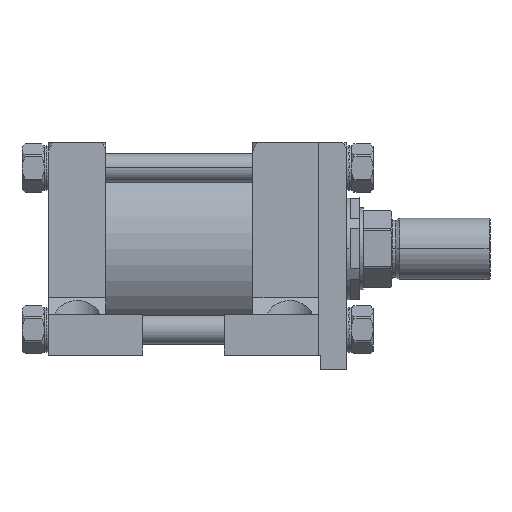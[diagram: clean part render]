
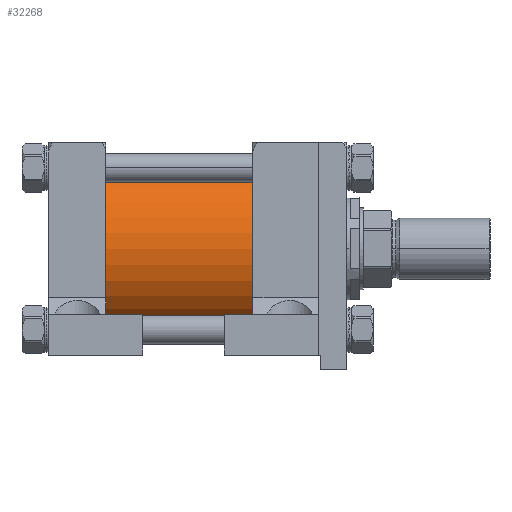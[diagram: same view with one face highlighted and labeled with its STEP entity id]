
A CAD part, front view. The second image highlights one B-rep face of the part: STEP entity #32268.
In plain terms, the highlighted cylindrical face has radius 73.025 mm (diameter 146.05 mm), a partial arc.
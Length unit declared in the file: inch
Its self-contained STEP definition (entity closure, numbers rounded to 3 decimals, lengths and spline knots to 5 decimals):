
#2795 = ORIENTED_EDGE ( 'NONE', *, *, #18049, .T. ) ;
#3043 = CARTESIAN_POINT ( 'NONE',  ( -9., 0., 0. ) ) ;
#3727 = VERTEX_POINT ( 'NONE', #40768 ) ;
#5960 = EDGE_CURVE ( 'NONE', #57860, #6254, #22225, .T. ) ;
#6254 = VERTEX_POINT ( 'NONE', #38153 ) ;
#8375 = FACE_OUTER_BOUND ( 'NONE', #51537, .T. ) ;
#12223 = CARTESIAN_POINT ( 'NONE',  ( -9., 0., 2.875 ) ) ;
#13126 = DIRECTION ( 'NONE',  ( 1., 0., 0. ) ) ;
#16745 = DIRECTION ( 'NONE',  ( 1., 0., 0. ) ) ;
#16849 = AXIS2_PLACEMENT_3D ( 'NONE', #33300, #52201, #37383 ) ;
#17806 = DIRECTION ( 'NONE',  ( 1., 0., 0. ) ) ;
#18049 = EDGE_CURVE ( 'NONE', #42977, #3727, #39229, .T. ) ;
#18780 = ORIENTED_EDGE ( 'NONE', *, *, #41698, .F. ) ;
#22225 = LINE ( 'NONE', #55882, #37690 ) ;
#22722 = ORIENTED_EDGE ( 'NONE', *, *, #61831, .T. ) ;
#27446 = CYLINDRICAL_SURFACE ( 'NONE', #52611, 2.875 ) ;
#30912 = CIRCLE ( 'NONE', #16849, 2.875 ) ;
#31915 = CARTESIAN_POINT ( 'NONE',  ( -4., 0., 0. ) ) ;
#32268 = ADVANCED_FACE ( 'NONE', ( #8375 ), #27446, .T. ) ;
#33300 = CARTESIAN_POINT ( 'NONE',  ( -9., 0., 0. ) ) ;
#33624 = AXIS2_PLACEMENT_3D ( 'NONE', #31915, #13126, #60000 ) ;
#34786 = DIRECTION ( 'NONE',  ( 1., 0., 0. ) ) ;
#35907 = DIRECTION ( 'NONE',  ( 0., 0., -1. ) ) ;
#37383 = DIRECTION ( 'NONE',  ( 0., 1., 0. ) ) ;
#37690 = VECTOR ( 'NONE', #17806, 39.37008 ) ;
#38153 = CARTESIAN_POINT ( 'NONE',  ( -4., 0., 2.875 ) ) ;
#39229 = LINE ( 'NONE', #58439, #59616 ) ;
#40768 = CARTESIAN_POINT ( 'NONE',  ( -4., 0., -2.875 ) ) ;
#41698 = EDGE_CURVE ( 'NONE', #6254, #3727, #52765, .T. ) ;
#42977 = VERTEX_POINT ( 'NONE', #53943 ) ;
#51537 = EDGE_LOOP ( 'NONE', ( #59312, #22722, #2795, #18780 ) ) ;
#52201 = DIRECTION ( 'NONE',  ( 1., 0., 0. ) ) ;
#52611 = AXIS2_PLACEMENT_3D ( 'NONE', #3043, #16745, #35907 ) ;
#52765 = CIRCLE ( 'NONE', #33624, 2.875 ) ;
#53943 = CARTESIAN_POINT ( 'NONE',  ( -9., 0., -2.875 ) ) ;
#55882 = CARTESIAN_POINT ( 'NONE',  ( -9., 0., 2.875 ) ) ;
#57860 = VERTEX_POINT ( 'NONE', #12223 ) ;
#58439 = CARTESIAN_POINT ( 'NONE',  ( -9., 0., -2.875 ) ) ;
#59312 = ORIENTED_EDGE ( 'NONE', *, *, #5960, .F. ) ;
#59616 = VECTOR ( 'NONE', #34786, 39.37008 ) ;
#60000 = DIRECTION ( 'NONE',  ( 0., 1., 0. ) ) ;
#61831 = EDGE_CURVE ( 'NONE', #57860, #42977, #30912, .T. ) ;
